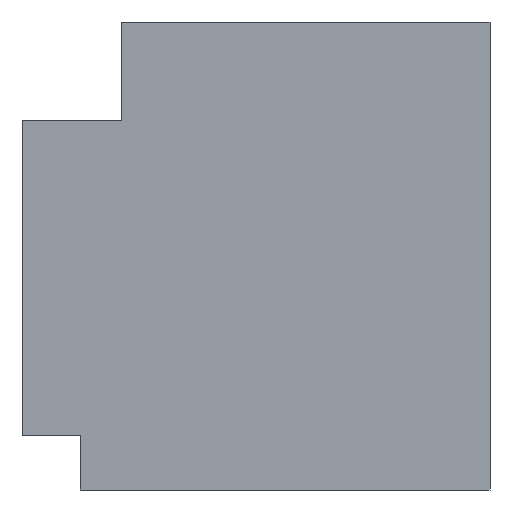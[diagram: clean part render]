
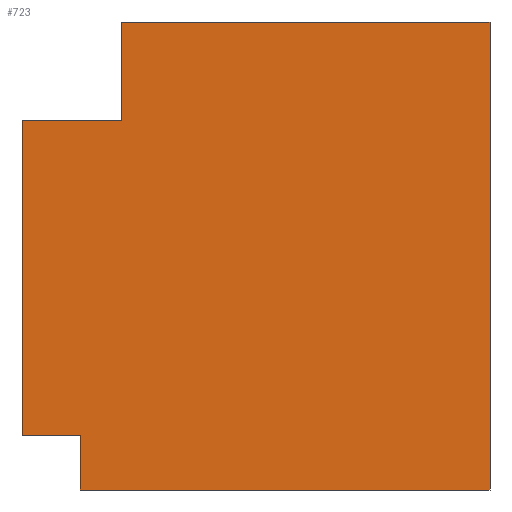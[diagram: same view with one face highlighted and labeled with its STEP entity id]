
A CAD part, left-side view. The second image highlights one B-rep face of the part: STEP entity #723.
In plain terms, the highlighted planar face has unit normal (-1, 0, 0).
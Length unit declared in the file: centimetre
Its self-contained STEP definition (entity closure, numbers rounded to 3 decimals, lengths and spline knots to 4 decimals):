
#9 = DIRECTION ( 'NONE',  ( 0., 0., -1. ) ) ;
#22 = EDGE_CURVE ( 'NONE', #1224, #1228, #462, .T. ) ;
#27 = CARTESIAN_POINT ( 'NONE',  ( 0., 875.6397, 116.2219 ) ) ;
#124 = FACE_OUTER_BOUND ( 'NONE', #406, .T. ) ;
#125 = DIRECTION ( 'NONE',  ( 0., 0., -1. ) ) ;
#130 = LINE ( 'NONE', #976, #159 ) ;
#151 = ORIENTED_EDGE ( 'NONE', *, *, #352, .T. ) ;
#159 = VECTOR ( 'NONE', #125, 100. ) ;
#223 = EDGE_CURVE ( 'NONE', #404, #595, #1366, .T. ) ;
#227 = ORIENTED_EDGE ( 'NONE', *, *, #274, .T. ) ;
#239 = CARTESIAN_POINT ( 'NONE',  ( 0., 1000., 1000. ) ) ;
#247 = ORIENTED_EDGE ( 'NONE', *, *, #223, .F. ) ;
#258 = CARTESIAN_POINT ( 'NONE',  ( 0., 1000., 789.57 ) ) ;
#263 = ORIENTED_EDGE ( 'NONE', *, *, #349, .T. ) ;
#266 = CARTESIAN_POINT ( 'NONE',  ( 0., 787.6698, 789.57 ) ) ;
#274 = EDGE_CURVE ( 'NONE', #1015, #989, #955, .T. ) ;
#278 = VECTOR ( 'NONE', #752, 100. ) ;
#349 = EDGE_CURVE ( 'NONE', #989, #595, #551, .T. ) ;
#352 = EDGE_CURVE ( 'NONE', #1228, #1262, #558, .T. ) ;
#404 = VERTEX_POINT ( 'NONE', #873 ) ;
#406 = EDGE_LOOP ( 'NONE', ( #947, #1011, #151, #821, #227, #263, #247, #1143 ) ) ;
#430 = DIRECTION ( 'NONE',  ( 0., 0., -1. ) ) ;
#462 = LINE ( 'NONE', #1201, #1274 ) ;
#503 = VECTOR ( 'NONE', #667, 100. ) ;
#505 = VECTOR ( 'NONE', #774, 100. ) ;
#551 = LINE ( 'NONE', #859, #278 ) ;
#558 = LINE ( 'NONE', #239, #503 ) ;
#595 = VERTEX_POINT ( 'NONE', #732 ) ;
#632 = DIRECTION ( 'NONE',  ( 0., 0., -1. ) ) ;
#664 = DIRECTION ( 'NONE',  ( 0., 1., 0. ) ) ;
#667 = DIRECTION ( 'NONE',  ( 0., 0., -1. ) ) ;
#723 = ADVANCED_FACE ( 'NONE', ( #124 ), #1164, .F. ) ;
#732 = CARTESIAN_POINT ( 'NONE',  ( 0., 0., 0. ) ) ;
#752 = DIRECTION ( 'NONE',  ( 0., -1., 0. ) ) ;
#754 = DIRECTION ( 'NONE',  ( 1., 0., 0. ) ) ;
#774 = DIRECTION ( 'NONE',  ( 0., -1., 0. ) ) ;
#821 = ORIENTED_EDGE ( 'NONE', *, *, #899, .T. ) ;
#825 = CARTESIAN_POINT ( 'NONE',  ( 0., 875.6397, 0. ) ) ;
#836 = VECTOR ( 'NONE', #430, 100. ) ;
#859 = CARTESIAN_POINT ( 'NONE',  ( 0., 1000., 0. ) ) ;
#873 = CARTESIAN_POINT ( 'NONE',  ( 0., 0., 1000. ) ) ;
#890 = VECTOR ( 'NONE', #952, 100. ) ;
#899 = EDGE_CURVE ( 'NONE', #1262, #1015, #972, .T. ) ;
#933 = CARTESIAN_POINT ( 'NONE',  ( 0., 875.6397, 116.2219 ) ) ;
#942 = EDGE_CURVE ( 'NONE', #1222, #404, #1051, .T. ) ;
#947 = ORIENTED_EDGE ( 'NONE', *, *, #1127, .T. ) ;
#952 = DIRECTION ( 'NONE',  ( 0., -1., 0. ) ) ;
#955 = LINE ( 'NONE', #1163, #836 ) ;
#956 = CARTESIAN_POINT ( 'NONE',  ( 0., 1000., 1000. ) ) ;
#972 = LINE ( 'NONE', #27, #505 ) ;
#976 = CARTESIAN_POINT ( 'NONE',  ( 0., 787.6698, 789.57 ) ) ;
#989 = VERTEX_POINT ( 'NONE', #825 ) ;
#1011 = ORIENTED_EDGE ( 'NONE', *, *, #22, .T. ) ;
#1015 = VERTEX_POINT ( 'NONE', #933 ) ;
#1028 = AXIS2_PLACEMENT_3D ( 'NONE', #956, #754, #9 ) ;
#1051 = LINE ( 'NONE', #1242, #890 ) ;
#1127 = EDGE_CURVE ( 'NONE', #1222, #1224, #130, .T. ) ;
#1143 = ORIENTED_EDGE ( 'NONE', *, *, #942, .F. ) ;
#1163 = CARTESIAN_POINT ( 'NONE',  ( 0., 875.6397, 0. ) ) ;
#1164 = PLANE ( 'NONE',  #1028 ) ;
#1201 = CARTESIAN_POINT ( 'NONE',  ( 0., 787.6698, 789.57 ) ) ;
#1208 = CARTESIAN_POINT ( 'NONE',  ( 0., 787.6698, 1000. ) ) ;
#1220 = CARTESIAN_POINT ( 'NONE',  ( 0., 1000., 116.2219 ) ) ;
#1222 = VERTEX_POINT ( 'NONE', #1208 ) ;
#1224 = VERTEX_POINT ( 'NONE', #266 ) ;
#1228 = VERTEX_POINT ( 'NONE', #258 ) ;
#1242 = CARTESIAN_POINT ( 'NONE',  ( 0., 1000., 1000. ) ) ;
#1262 = VERTEX_POINT ( 'NONE', #1220 ) ;
#1274 = VECTOR ( 'NONE', #664, 100. ) ;
#1276 = CARTESIAN_POINT ( 'NONE',  ( 0., 0., 1000. ) ) ;
#1365 = VECTOR ( 'NONE', #632, 100. ) ;
#1366 = LINE ( 'NONE', #1276, #1365 ) ;
